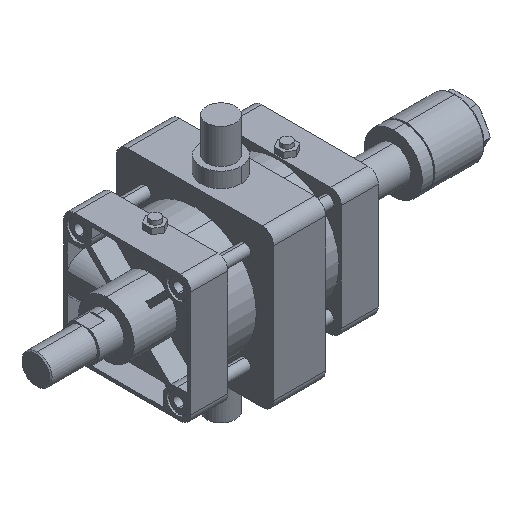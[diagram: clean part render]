
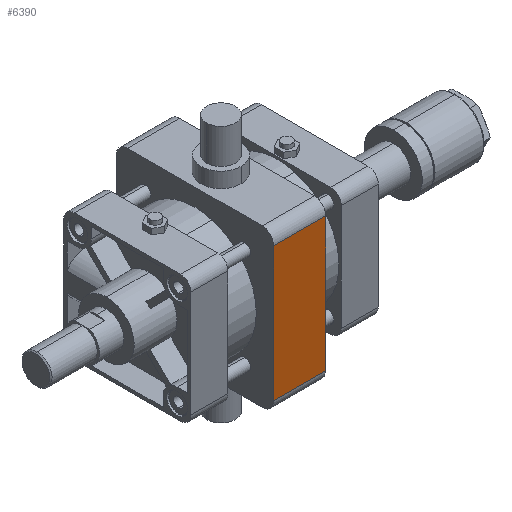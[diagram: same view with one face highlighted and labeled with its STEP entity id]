
A CAD part, isometric view. The second image highlights one B-rep face of the part: STEP entity #6390.
In plain terms, the highlighted planar face has unit normal (0, -1, 0) as drawn and (0, 0, 1) by its records, which use the part's own axes.
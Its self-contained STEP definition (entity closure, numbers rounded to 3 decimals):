
#53 = VECTOR ( 'NONE', #9465, 1000. ) ;
#75 = CARTESIAN_POINT ( 'NONE',  ( 58., 0., 68. ) ) ;
#77 = CARTESIAN_POINT ( 'NONE',  ( 0., -45., 68. ) ) ;
#210 = CARTESIAN_POINT ( 'NONE',  ( -58., 0., 68. ) ) ;
#648 = CARTESIAN_POINT ( 'NONE',  ( 58., -22.5, 68. ) ) ;
#1083 = CARTESIAN_POINT ( 'NONE',  ( -58., -22.5, 68. ) ) ;
#1422 = DIRECTION ( 'NONE',  ( 1., 0., 0. ) ) ;
#1628 = EDGE_LOOP ( 'NONE', ( #4379, #10056, #5444, #8583 ) ) ;
#2133 = LINE ( 'NONE', #2302, #53 ) ;
#2287 = CARTESIAN_POINT ( 'NONE',  ( 58., -45., 68. ) ) ;
#2302 = CARTESIAN_POINT ( 'NONE',  ( 0., 0., 68. ) ) ;
#3162 = EDGE_CURVE ( 'NONE', #3563, #5771, #2133, .T. ) ;
#3249 = VECTOR ( 'NONE', #6947, 1000. ) ;
#3563 = VERTEX_POINT ( 'NONE', #210 ) ;
#4260 = FACE_OUTER_BOUND ( 'NONE', #1628, .T. ) ;
#4379 = ORIENTED_EDGE ( 'NONE', *, *, #3162, .F. ) ;
#4975 = DIRECTION ( 'NONE',  ( 0., 1., 0. ) ) ;
#5444 = ORIENTED_EDGE ( 'NONE', *, *, #7222, .T. ) ;
#5759 = VERTEX_POINT ( 'NONE', #8701 ) ;
#5771 = VERTEX_POINT ( 'NONE', #75 ) ;
#6390 = ADVANCED_FACE ( 'NONE', ( #4260 ), #10091, .T. ) ;
#6410 = AXIS2_PLACEMENT_3D ( 'NONE', #10260, #9585, #1422 ) ;
#6887 = VECTOR ( 'NONE', #9200, 1000. ) ;
#6947 = DIRECTION ( 'NONE',  ( 0., -1., 0. ) ) ;
#7222 = EDGE_CURVE ( 'NONE', #5759, #7703, #9036, .T. ) ;
#7428 = LINE ( 'NONE', #1083, #3249 ) ;
#7703 = VERTEX_POINT ( 'NONE', #2287 ) ;
#8583 = ORIENTED_EDGE ( 'NONE', *, *, #8713, .T. ) ;
#8679 = VECTOR ( 'NONE', #4975, 1000. ) ;
#8701 = CARTESIAN_POINT ( 'NONE',  ( -58., -45., 68. ) ) ;
#8713 = EDGE_CURVE ( 'NONE', #7703, #5771, #9984, .T. ) ;
#9036 = LINE ( 'NONE', #77, #6887 ) ;
#9200 = DIRECTION ( 'NONE',  ( 1., 0., 0. ) ) ;
#9465 = DIRECTION ( 'NONE',  ( 1., 0., 0. ) ) ;
#9585 = DIRECTION ( 'NONE',  ( 0., 0., 1. ) ) ;
#9984 = LINE ( 'NONE', #648, #8679 ) ;
#9993 = EDGE_CURVE ( 'NONE', #3563, #5759, #7428, .T. ) ;
#10056 = ORIENTED_EDGE ( 'NONE', *, *, #9993, .T. ) ;
#10091 = PLANE ( 'NONE',  #6410 ) ;
#10260 = CARTESIAN_POINT ( 'NONE',  ( -58., -45., 68. ) ) ;
